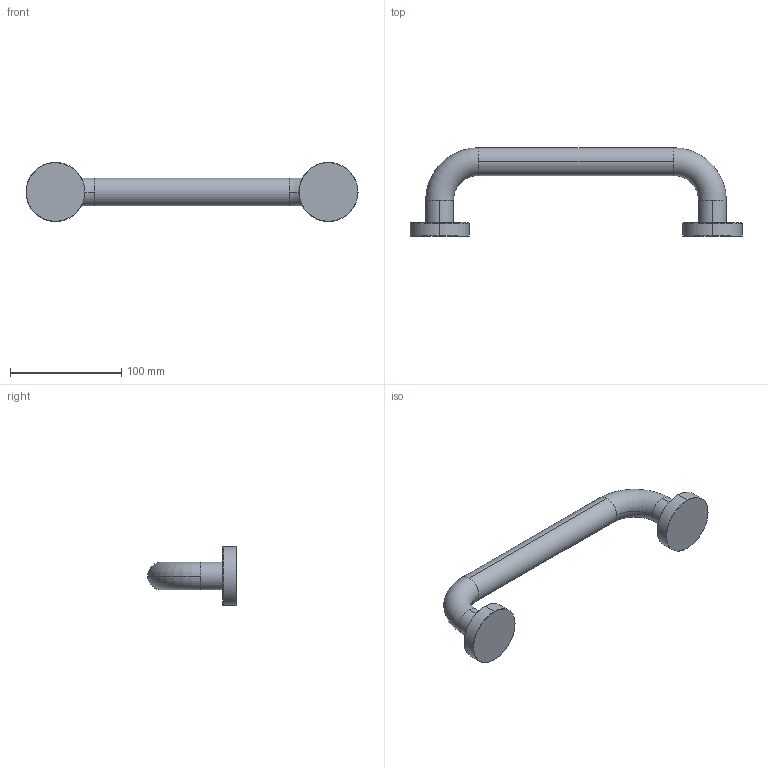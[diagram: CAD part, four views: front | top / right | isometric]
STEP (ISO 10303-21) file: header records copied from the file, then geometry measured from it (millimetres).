
FILE_DESCRIPTION(('THIS FILE CONTAINS SOME STEP INSTANCES'),'1');
FILE_NAME('HAR 042-light.stp','2015-11-18T 8:26:36',('UNDEFINED'),('UNDEFINED'),'T-FLEX CAD STEP converter','T-FLEX CAD','');
FILE_SCHEMA(('CONFIG_CONTROL_DESIGN'));
Length unit declared in the file: metre
Products named in the file (1): har_042
Bounding box: 297.98 x 79.5 x 53 mm (x, y, z)
Volume: 212211.9 mm3; surface area: 38188.2 mm2
Topology: 1 solids, 1 shells, 44 faces, 94 edges, 56 vertices
Faces by surface type: cone 20, cylinder 14, plane 6, torus 4
Entity records: 1055 total; most frequent: CARTESIAN_POINT 240, ORIENTED_EDGE 188, DIRECTION 142, EDGE_CURVE 94, VERTEX_POINT 56, AXIS2_PLACEMENT_3D 54, EDGE_LOOP 48, ADVANCED_FACE 44
